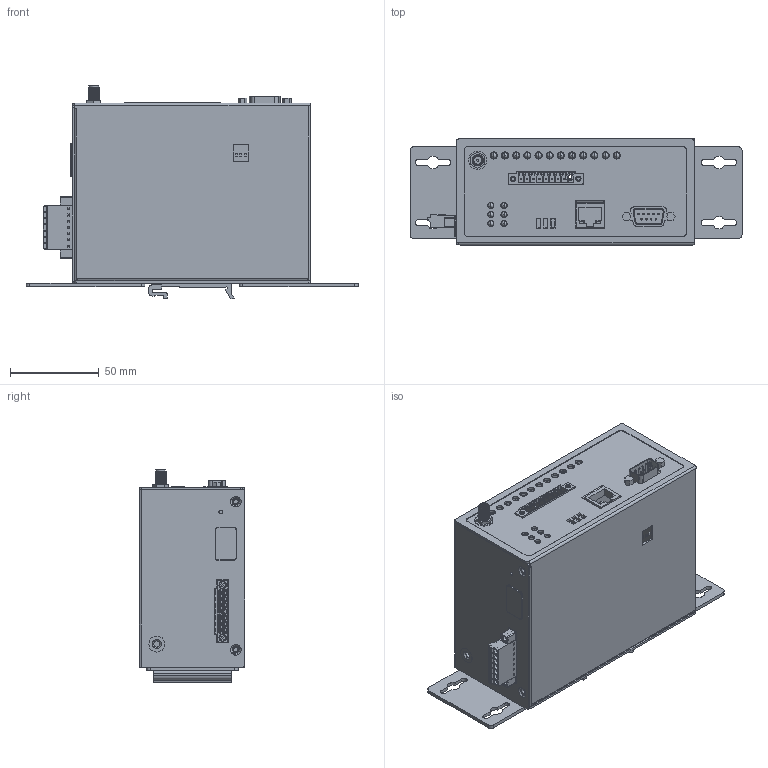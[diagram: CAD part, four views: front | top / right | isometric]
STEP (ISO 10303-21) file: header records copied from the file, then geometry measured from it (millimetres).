
FILE_DESCRIPTION((''),'2;1');
FILE_NAME('3D_NPORT_IAW5150A_6IO','2016-12-16T',('Dacia_Yao'),('PTC'),'PRO/ENGINEER BY PARAMETRIC TECHNOLOGY CORPORATION, 2013230','PRO/ENGINEER BY PARAMETRIC TECHNOLOGY CORPORATION, 2013230','');
FILE_SCHEMA(('AUTOMOTIVE_DESIGN { 1 0 10303 214 1 1 1 1 }'));
Products named in the file (1): 3D_NPORT_IAW5150A_6IO
Bounding box: 187.14 x 59.6 x 120.3 mm (x, y, z)
Volume: 92364.8 mm3; surface area: 137289.4 mm2
Topology: 34 solids, 57 shells, 2948 faces, 8001 edges, 5282 vertices
Faces by surface type: plane 1861, cylinder 823, bspline 120, torus 71, cone 68, sphere 4, extrusion 1
Entity records: 101466 total; most frequent: CARTESIAN_POINT 26751, ORIENTED_EDGE 16002, DIRECTION 14679, EDGE_CURVE 8001, VECTOR 5595, LINE 5594, VERTEX_POINT 5283, AXIS2_PLACEMENT_3D 4542
